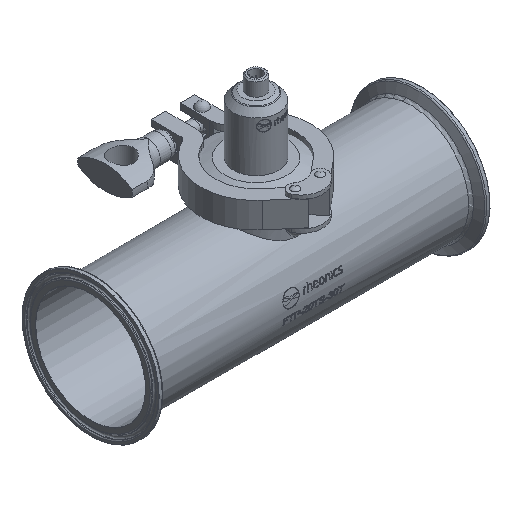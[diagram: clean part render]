
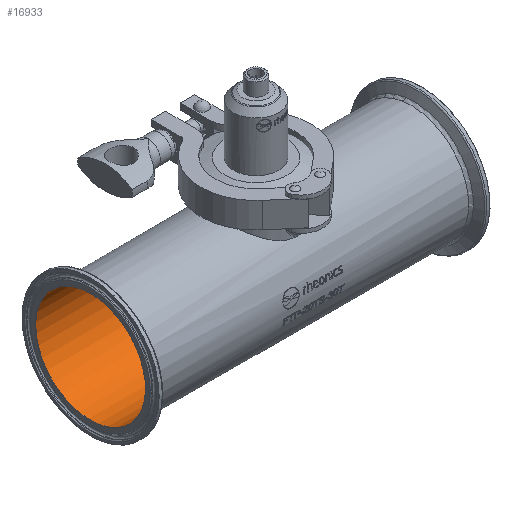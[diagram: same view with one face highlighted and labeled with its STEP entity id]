
A CAD part, isometric view. The second image highlights one B-rep face of the part: STEP entity #16933.
In plain terms, the highlighted cylindrical face has radius 36.45 mm (diameter 72.9 mm), a full revolution.
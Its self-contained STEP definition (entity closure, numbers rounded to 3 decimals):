
#2165=CIRCLE('',#17730,36.45);
#2166=CIRCLE('',#17731,36.45);
#2550=ORIENTED_EDGE('',*,*,#6186,.T.);
#2551=ORIENTED_EDGE('',*,*,#6187,.T.);
#2552=ORIENTED_EDGE('',*,*,#6188,.T.);
#6186=EDGE_CURVE('',#8004,#8004,#9261,.T.);
#6187=EDGE_CURVE('',#8005,#8005,#2165,.F.);
#6188=EDGE_CURVE('',#8006,#8006,#2166,.F.);
#8004=VERTEX_POINT('',#21177);
#8005=VERTEX_POINT('',#21179);
#8006=VERTEX_POINT('',#21181);
#9261=B_SPLINE_CURVE_WITH_KNOTS('',3,(#21130,#21131,#21132,#21133,#21134,
#21135,#21136,#21137,#21138,#21139,#21140,#21141,#21142,#21143,#21144,#21145,
#21146,#21147,#21148,#21149,#21150,#21151,#21152,#21153,#21154,#21155,#21156,
#21157,#21158,#21159,#21160,#21161,#21162,#21163,#21164,#21165,#21166,#21167,
#21168,#21169,#21170,#21171,#21172,#21173,#21174,#21175,#21176),
 .UNSPECIFIED.,.T.,.F.,(1,1,1,1,1,1,1,1,1,1,1,1,1,1,1,1,1,1,1,1,1,1,1,1,
1,1,1,1,1,1,1,1,1,1,1,1,1,1,1,1,1,1,1,1,1,1,1,1,1,1,1),(-0.01,
-0.005,-0.003,0.,0.003,
0.005,0.01,0.013,0.015,
0.02,0.025,0.03,0.035,
0.038,0.04,0.043,0.046,
0.051,0.056,0.061,0.063,
0.066,0.068,0.071,0.076,
0.081,0.084,0.086,0.091,
0.094,0.096,0.101,0.106,
0.111,0.114,0.116,0.121,
0.124,0.127,0.132,0.137,
0.142,0.144,0.147,0.152,
0.157,0.159,0.162,0.164,
0.167,0.172),.UNSPECIFIED.);
#9936=EDGE_LOOP('',(#2550));
#9937=EDGE_LOOP('',(#2551));
#9938=EDGE_LOOP('',(#2552));
#10937=FACE_BOUND('',#9936,.T.);
#10938=FACE_BOUND('',#9937,.T.);
#10939=FACE_BOUND('',#9938,.T.);
#11938=CYLINDRICAL_SURFACE('',#17729,36.45);
#16933=ADVANCED_FACE('',(#10937,#10938,#10939),#11938,.F.);
#17729=AXIS2_PLACEMENT_3D('',#21129,#18618,#18619);
#17730=AXIS2_PLACEMENT_3D('',#21178,#18620,#18621);
#17731=AXIS2_PLACEMENT_3D('',#21180,#18622,#18623);
#18618=DIRECTION('',(-1.,0.,0.));
#18619=DIRECTION('',(0.,0.,-1.));
#18620=DIRECTION('',(1.,0.,0.));
#18621=DIRECTION('',(0.,0.924,0.382));
#18622=DIRECTION('',(-1.,0.,0.));
#18623=DIRECTION('',(0.,0.,1.));
#21129=CARTESIAN_POINT('',(77.849,0.,0.));
#21130=CARTESIAN_POINT('',(22.76,-2.564,36.389));
#21131=CARTESIAN_POINT('',(22.893,0.002,36.48));
#21132=CARTESIAN_POINT('',(22.76,2.555,36.389));
#21133=CARTESIAN_POINT('',(22.252,5.866,36.042));
#21134=CARTESIAN_POINT('',(21.238,9.092,35.358));
#21135=CARTESIAN_POINT('',(19.818,12.013,34.438));
#21136=CARTESIAN_POINT('',(18.12,14.786,33.372));
#21137=CARTESIAN_POINT('',(15.585,17.831,31.868));
#21138=CARTESIAN_POINT('',(11.894,20.861,29.949));
#21139=CARTESIAN_POINT('',(7.737,23.131,28.205));
#21140=CARTESIAN_POINT('',(3.766,24.39,27.093));
#21141=CARTESIAN_POINT('',(0.456,24.907,26.613));
#21142=CARTESIAN_POINT('',(-2.122,25.044,26.484));
#21143=CARTESIAN_POINT('',(-4.644,24.918,26.603));
#21144=CARTESIAN_POINT('',(-7.994,24.41,27.075));
#21145=CARTESIAN_POINT('',(-11.943,23.175,28.17));
#21146=CARTESIAN_POINT('',(-16.177,20.875,29.939));
#21147=CARTESIAN_POINT('',(-19.216,18.39,31.517));
#21148=CARTESIAN_POINT('',(-21.376,16.041,32.752));
#21149=CARTESIAN_POINT('',(-22.81,14.145,33.616));
#21150=CARTESIAN_POINT('',(-24.072,12.103,34.407));
#21151=CARTESIAN_POINT('',(-25.522,9.143,35.346));
#21152=CARTESIAN_POINT('',(-26.785,5.179,36.197));
#21153=CARTESIAN_POINT('',(-27.236,0.898,36.508));
#21154=CARTESIAN_POINT('',(-27.073,-2.468,36.396));
#21155=CARTESIAN_POINT('',(-26.561,-5.853,36.046));
#21156=CARTESIAN_POINT('',(-25.568,-9.025,35.376));
#21157=CARTESIAN_POINT('',(-24.127,-12.003,34.442));
#21158=CARTESIAN_POINT('',(-22.448,-14.75,33.387));
#21159=CARTESIAN_POINT('',(-19.877,-17.841,31.863));
#21160=CARTESIAN_POINT('',(-16.239,-20.835,29.967));
#21161=CARTESIAN_POINT('',(-12.692,-22.77,28.482));
#21162=CARTESIAN_POINT('',(-9.65,-23.891,27.534));
#21163=CARTESIAN_POINT('',(-6.405,-24.736,26.779));
#21164=CARTESIAN_POINT('',(-3.035,-25.088,26.442));
#21165=CARTESIAN_POINT('',(0.403,-24.913,26.608));
#21166=CARTESIAN_POINT('',(3.718,-24.402,27.082));
#21167=CARTESIAN_POINT('',(7.692,-23.153,28.188));
#21168=CARTESIAN_POINT('',(11.894,-20.862,29.948));
#21169=CARTESIAN_POINT('',(14.96,-18.345,31.543));
#21170=CARTESIAN_POINT('',(17.098,-16.012,32.766));
#21171=CARTESIAN_POINT('',(19.039,-13.433,33.937));
#21172=CARTESIAN_POINT('',(20.969,-9.927,35.178));
#21173=CARTESIAN_POINT('',(22.248,-5.89,36.039));
#21174=CARTESIAN_POINT('',(22.76,-2.564,36.389));
#21175=CARTESIAN_POINT('',(22.893,0.002,36.48));
#21176=CARTESIAN_POINT('',(22.76,2.555,36.389));
#21177=CARTESIAN_POINT('',(22.849,0.,36.45));
#21178=CARTESIAN_POINT('',(-112.001,0.,0.));
#21179=CARTESIAN_POINT('',(-112.001,33.688,13.918));
#21180=CARTESIAN_POINT('',(107.699,0.,0.));
#21181=CARTESIAN_POINT('',(107.699,0.,36.45));
